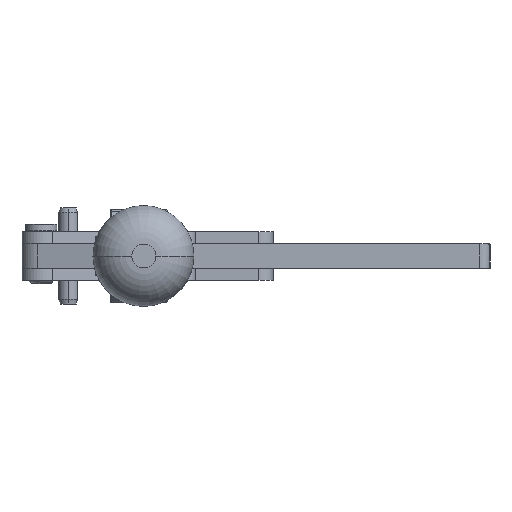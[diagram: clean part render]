
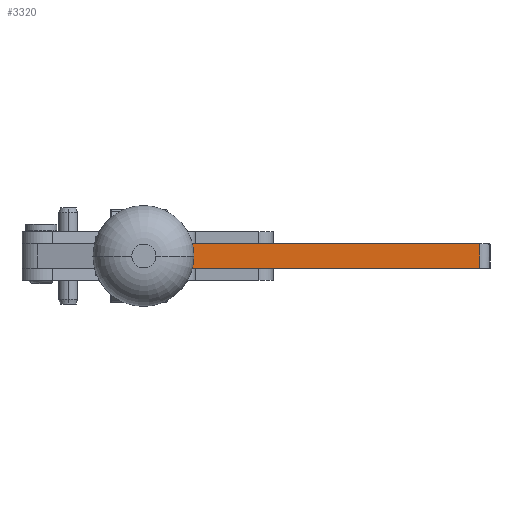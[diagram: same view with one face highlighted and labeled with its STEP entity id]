
A CAD part, left-side view. The second image highlights one B-rep face of the part: STEP entity #3320.
In plain terms, the highlighted planar face has unit normal (-1, 0.008, 0) as drawn and (0, -1, 0) by its records, which use the part's own axes.
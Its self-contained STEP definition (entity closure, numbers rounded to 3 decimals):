
#291 = ORIENTED_EDGE ( 'NONE', *, *, #1573, .T. ) ;
#465 = DIRECTION ( 'NONE',  ( 1., 0., 0. ) ) ;
#754 = ORIENTED_EDGE ( 'NONE', *, *, #5831, .F. ) ;
#1229 = CARTESIAN_POINT ( 'NONE',  ( 4392.502, 2113.208, -5. ) ) ;
#1573 = EDGE_CURVE ( 'NONE', #3121, #13880, #11344, .T. ) ;
#1762 = CARTESIAN_POINT ( 'NONE',  ( 4560.404, 2113.208, 0. ) ) ;
#3121 = VERTEX_POINT ( 'NONE', #20571 ) ;
#3320 = ADVANCED_FACE ( 'NONE', ( #5158 ), #13403, .T. ) ;
#4208 = VECTOR ( 'NONE', #10934, 1000. ) ;
#5158 = FACE_OUTER_BOUND ( 'NONE', #19015, .T. ) ;
#5398 = EDGE_CURVE ( 'NONE', #13880, #11094, #15724, .T. ) ;
#5460 = VECTOR ( 'NONE', #11087, 1000. ) ;
#5608 = CARTESIAN_POINT ( 'NONE',  ( 4392.502, 2113.208, 0. ) ) ;
#5831 = EDGE_CURVE ( 'NONE', #11221, #11094, #11876, .T. ) ;
#7506 = VECTOR ( 'NONE', #14822, 1000. ) ;
#8648 = DIRECTION ( 'NONE',  ( 0., -1., 0. ) ) ;
#10591 = EDGE_CURVE ( 'NONE', #3121, #11221, #20736, .T. ) ;
#10934 = DIRECTION ( 'NONE',  ( 0., 0., 1. ) ) ;
#11087 = DIRECTION ( 'NONE',  ( 0., 0., 1. ) ) ;
#11094 = VERTEX_POINT ( 'NONE', #15103 ) ;
#11221 = VERTEX_POINT ( 'NONE', #5608 ) ;
#11344 = LINE ( 'NONE', #12932, #7506 ) ;
#11876 = LINE ( 'NONE', #1762, #18910 ) ;
#12932 = CARTESIAN_POINT ( 'NONE',  ( 4392.502, 2113.208, -5. ) ) ;
#13403 = PLANE ( 'NONE',  #20018 ) ;
#13880 = VERTEX_POINT ( 'NONE', #19456 ) ;
#14344 = CARTESIAN_POINT ( 'NONE',  ( 4459.404, 2113.208, -0.2 ) ) ;
#14822 = DIRECTION ( 'NONE',  ( 1., 0., 0. ) ) ;
#15103 = CARTESIAN_POINT ( 'NONE',  ( 4459.404, 2113.208, 0. ) ) ;
#15488 = ORIENTED_EDGE ( 'NONE', *, *, #10591, .F. ) ;
#15724 = LINE ( 'NONE', #14344, #5460 ) ;
#17607 = ORIENTED_EDGE ( 'NONE', *, *, #5398, .T. ) ;
#18910 = VECTOR ( 'NONE', #465, 1000. ) ;
#19015 = EDGE_LOOP ( 'NONE', ( #291, #17607, #754, #15488 ) ) ;
#19456 = CARTESIAN_POINT ( 'NONE',  ( 4459.404, 2113.208, -5. ) ) ;
#19523 = DIRECTION ( 'NONE',  ( 0., 0., -1. ) ) ;
#19833 = CARTESIAN_POINT ( 'NONE',  ( 4560.404, 2113.208, -5. ) ) ;
#20018 = AXIS2_PLACEMENT_3D ( 'NONE', #19833, #8648, #19523 ) ;
#20571 = CARTESIAN_POINT ( 'NONE',  ( 4392.502, 2113.208, -5. ) ) ;
#20736 = LINE ( 'NONE', #1229, #4208 ) ;
